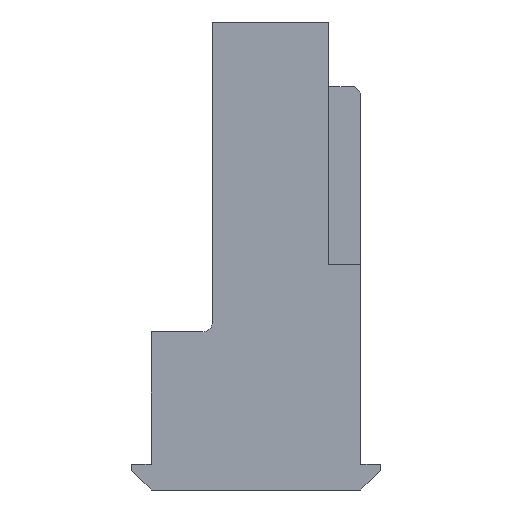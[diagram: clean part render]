
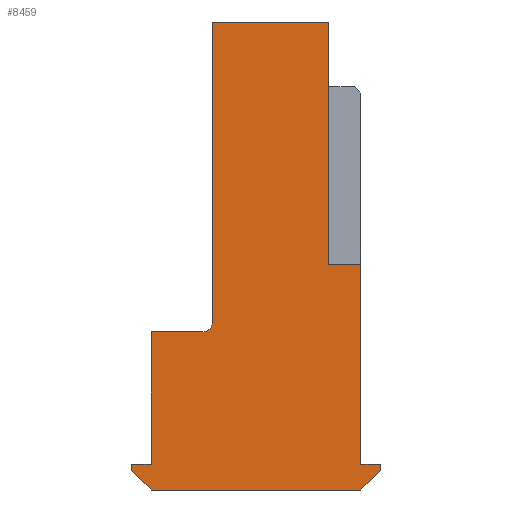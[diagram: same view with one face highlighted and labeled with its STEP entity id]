
A CAD part, left-side view. The second image highlights one B-rep face of the part: STEP entity #8459.
In plain terms, the highlighted planar face has unit normal (-1, 0, 0).
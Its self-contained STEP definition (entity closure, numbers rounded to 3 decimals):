
#134=DIRECTION('',(0.,-1.,0.));
#135=VECTOR('',#134,2.032);
#136=CARTESIAN_POINT('',(-9.906,4.369,-12.192));
#137=LINE('',#136,#135);
#138=DIRECTION('',(0.,0.,1.));
#139=VECTOR('',#138,11.811);
#140=CARTESIAN_POINT('',(-9.906,1.956,-11.811));
#141=LINE('',#140,#139);
#142=DIRECTION('',(0.,-1.,0.));
#143=VECTOR('',#142,4.572);
#144=CARTESIAN_POINT('',(-9.906,1.956,0.));
#145=LINE('',#144,#143);
#146=DIRECTION('',(0.,-1.,0.));
#147=VECTOR('',#146,1.27);
#148=CARTESIAN_POINT('',(-9.906,-2.616,-9.525));
#149=LINE('',#148,#147);
#150=DIRECTION('',(0.,0.,-1.));
#151=VECTOR('',#150,7.874);
#152=CARTESIAN_POINT('',(-9.906,-3.886,-9.525));
#153=LINE('',#152,#151);
#154=DIRECTION('',(0.,-1.,0.));
#155=VECTOR('',#154,0.762);
#156=CARTESIAN_POINT('',(-9.906,-3.886,-17.399));
#157=LINE('',#156,#155);
#158=DIRECTION('',(0.,0.,-1.));
#159=VECTOR('',#158,0.254);
#160=CARTESIAN_POINT('',(-9.906,-4.648,-17.399));
#161=LINE('',#160,#159);
#162=DIRECTION('',(0.,0.707,-0.707));
#163=VECTOR('',#162,1.078);
#164=CARTESIAN_POINT('',(-9.906,-4.648,-17.653));
#165=LINE('',#164,#163);
#166=DIRECTION('',(0.,1.,0.));
#167=VECTOR('',#166,8.255);
#168=CARTESIAN_POINT('',(-9.906,-3.886,-18.415));
#169=LINE('',#168,#167);
#170=DIRECTION('',(0.,0.707,0.707));
#171=VECTOR('',#170,1.078);
#172=CARTESIAN_POINT('',(-9.906,4.369,-18.415));
#173=LINE('',#172,#171);
#174=DIRECTION('',(0.,0.,1.));
#175=VECTOR('',#174,0.254);
#176=CARTESIAN_POINT('',(-9.906,5.131,-17.653));
#177=LINE('',#176,#175);
#178=DIRECTION('',(0.,-1.,0.));
#179=VECTOR('',#178,0.762);
#180=CARTESIAN_POINT('',(-9.906,5.131,-17.399));
#181=LINE('',#180,#179);
#182=DIRECTION('',(0.,0.,1.));
#183=VECTOR('',#182,5.207);
#184=CARTESIAN_POINT('',(-9.906,4.369,-17.399));
#185=LINE('',#184,#183);
#194=CARTESIAN_POINT('',(-9.906,2.337,-11.811));
#195=DIRECTION('',(1.,0.,0.));
#196=DIRECTION('',(0.,-1.,0.));
#197=AXIS2_PLACEMENT_3D('',#194,#195,#196);
#1743=DIRECTION('',(0.,0.,1.));
#1744=VECTOR('',#1743,9.525);
#1745=CARTESIAN_POINT('',(-9.906,-2.616,-9.525));
#1746=LINE('',#1745,#1744);
#6394=CARTESIAN_POINT('',(-9.906,1.956,0.));
#6395=CARTESIAN_POINT('',(-9.906,-2.616,0.));
#6396=VERTEX_POINT('',#6394);
#6397=VERTEX_POINT('',#6395);
#6402=CARTESIAN_POINT('',(-9.906,-3.886,-17.399));
#6403=CARTESIAN_POINT('',(-9.906,-4.648,-17.399));
#6404=VERTEX_POINT('',#6402);
#6405=VERTEX_POINT('',#6403);
#6406=CARTESIAN_POINT('',(-9.906,-4.648,-17.653));
#6407=VERTEX_POINT('',#6406);
#6408=CARTESIAN_POINT('',(-9.906,-3.886,-18.415));
#6409=VERTEX_POINT('',#6408);
#6410=CARTESIAN_POINT('',(-9.906,4.369,-18.415));
#6411=VERTEX_POINT('',#6410);
#6412=CARTESIAN_POINT('',(-9.906,4.369,-17.399));
#6413=CARTESIAN_POINT('',(-9.906,4.369,-12.192));
#6414=VERTEX_POINT('',#6412);
#6415=VERTEX_POINT('',#6413);
#6544=CARTESIAN_POINT('',(-9.906,-2.616,-9.525));
#6545=CARTESIAN_POINT('',(-9.906,-3.886,-9.525));
#6546=VERTEX_POINT('',#6544);
#6547=VERTEX_POINT('',#6545);
#6640=CARTESIAN_POINT('',(-9.906,5.131,-17.653));
#6641=VERTEX_POINT('',#6640);
#6642=CARTESIAN_POINT('',(-9.906,5.131,-17.399));
#6643=VERTEX_POINT('',#6642);
#8378=CARTESIAN_POINT('',(-9.906,1.956,-11.811));
#8380=VERTEX_POINT('',#8378);
#8382=CARTESIAN_POINT('',(-9.906,2.337,-12.192));
#8384=VERTEX_POINT('',#8382);
#8422=CARTESIAN_POINT('',(-9.906,0.,0.));
#8423=DIRECTION('',(1.,0.,0.));
#8424=DIRECTION('',(0.,0.,-1.));
#8425=AXIS2_PLACEMENT_3D('',#8422,#8423,#8424);
#8426=PLANE('',#8425);
#8428=ORIENTED_EDGE('',*,*,#8427,.T.);
#8430=ORIENTED_EDGE('',*,*,#8429,.F.);
#8432=ORIENTED_EDGE('',*,*,#8431,.T.);
#8434=ORIENTED_EDGE('',*,*,#8433,.T.);
#8436=ORIENTED_EDGE('',*,*,#8435,.F.);
#8438=ORIENTED_EDGE('',*,*,#8437,.T.);
#8440=ORIENTED_EDGE('',*,*,#8439,.T.);
#8442=ORIENTED_EDGE('',*,*,#8441,.T.);
#8444=ORIENTED_EDGE('',*,*,#8443,.T.);
#8446=ORIENTED_EDGE('',*,*,#8445,.T.);
#8448=ORIENTED_EDGE('',*,*,#8447,.T.);
#8450=ORIENTED_EDGE('',*,*,#8449,.T.);
#8452=ORIENTED_EDGE('',*,*,#8451,.T.);
#8454=ORIENTED_EDGE('',*,*,#8453,.T.);
#8456=ORIENTED_EDGE('',*,*,#8455,.T.);
#8457=EDGE_LOOP('',(#8428,#8430,#8432,#8434,#8436,#8438,#8440,#8442,#8444,#8446,
#8448,#8450,#8452,#8454,#8456));
#8458=FACE_OUTER_BOUND('',#8457,.F.);
#198=CIRCLE('',#197,0.381);
#8427=EDGE_CURVE('',#6415,#8384,#137,.T.);
#8429=EDGE_CURVE('',#8380,#8384,#198,.T.);
#8431=EDGE_CURVE('',#8380,#6396,#141,.T.);
#8433=EDGE_CURVE('',#6396,#6397,#145,.T.);
#8435=EDGE_CURVE('',#6546,#6397,#1746,.T.);
#8437=EDGE_CURVE('',#6546,#6547,#149,.T.);
#8439=EDGE_CURVE('',#6547,#6404,#153,.T.);
#8441=EDGE_CURVE('',#6404,#6405,#157,.T.);
#8443=EDGE_CURVE('',#6405,#6407,#161,.T.);
#8445=EDGE_CURVE('',#6407,#6409,#165,.T.);
#8447=EDGE_CURVE('',#6409,#6411,#169,.T.);
#8449=EDGE_CURVE('',#6411,#6641,#173,.T.);
#8451=EDGE_CURVE('',#6641,#6643,#177,.T.);
#8453=EDGE_CURVE('',#6643,#6414,#181,.T.);
#8455=EDGE_CURVE('',#6414,#6415,#185,.T.);
#8459=ADVANCED_FACE('',(#8458),#8426,.F.);
